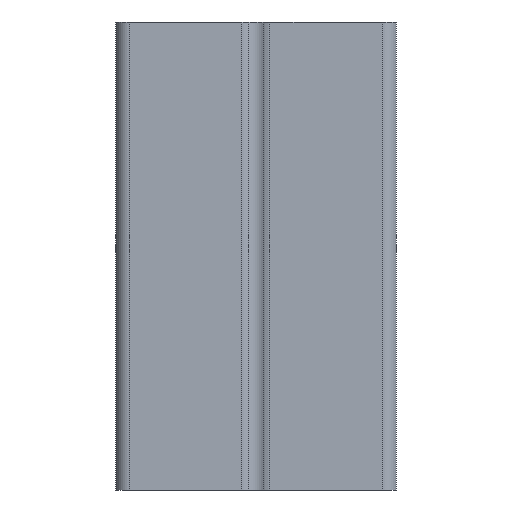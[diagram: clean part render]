
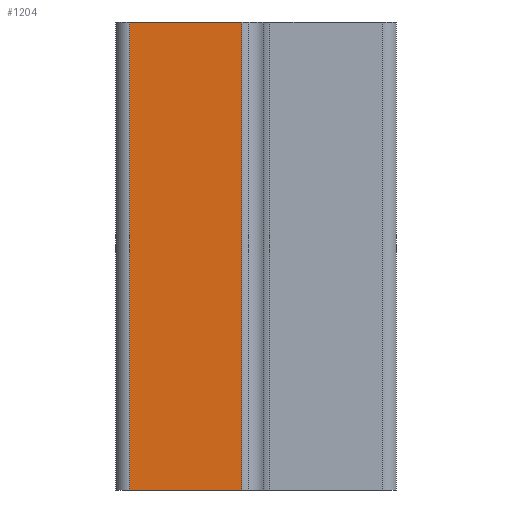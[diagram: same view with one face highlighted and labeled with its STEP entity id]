
A CAD part, front view. The second image highlights one B-rep face of the part: STEP entity #1204.
In plain terms, the highlighted planar face has unit normal (0, -1, 0).
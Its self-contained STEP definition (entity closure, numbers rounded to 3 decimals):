
#52 = DIRECTION ( 'NONE',  ( 0., 0., -1. ) ) ;
#147 = PLANE ( 'NONE',  #148 ) ;
#148 = AXIS2_PLACEMENT_3D ( 'NONE', #502, #373, #623 ) ;
#153 = VECTOR ( 'NONE', #1016, 1000. ) ;
#222 = LINE ( 'NONE', #834, #1396 ) ;
#287 = CARTESIAN_POINT ( 'NONE',  ( -27., -15., 100. ) ) ;
#325 = VECTOR ( 'NONE', #497, 1000. ) ;
#373 = DIRECTION ( 'NONE',  ( 0., 1., 0. ) ) ;
#457 = LINE ( 'NONE', #571, #153 ) ;
#478 = ORIENTED_EDGE ( 'NONE', *, *, #811, .F. ) ;
#497 = DIRECTION ( 'NONE',  ( 0., 0., -1. ) ) ;
#502 = CARTESIAN_POINT ( 'NONE',  ( -27., -15., 100. ) ) ;
#569 = VERTEX_POINT ( 'NONE', #1216 ) ;
#571 = CARTESIAN_POINT ( 'NONE',  ( -27., -15., 100. ) ) ;
#577 = VERTEX_POINT ( 'NONE', #287 ) ;
#594 = EDGE_LOOP ( 'NONE', ( #911, #1450, #478, #1300 ) ) ;
#623 = DIRECTION ( 'NONE',  ( 0., 0., 1. ) ) ;
#687 = VERTEX_POINT ( 'NONE', #1339 ) ;
#695 = LINE ( 'NONE', #1167, #325 ) ;
#811 = EDGE_CURVE ( 'NONE', #577, #823, #457, .T. ) ;
#823 = VERTEX_POINT ( 'NONE', #1382 ) ;
#834 = CARTESIAN_POINT ( 'NONE',  ( -27., -15., 0. ) ) ;
#911 = ORIENTED_EDGE ( 'NONE', *, *, #1008, .T. ) ;
#981 = EDGE_CURVE ( 'NONE', #823, #569, #695, .T. ) ;
#1008 = EDGE_CURVE ( 'NONE', #687, #569, #222, .T. ) ;
#1016 = DIRECTION ( 'NONE',  ( 1., 0., 0. ) ) ;
#1020 = VECTOR ( 'NONE', #52, 1000. ) ;
#1056 = LINE ( 'NONE', #1303, #1020 ) ;
#1057 = EDGE_CURVE ( 'NONE', #577, #687, #1056, .T. ) ;
#1110 = FACE_OUTER_BOUND ( 'NONE', #594, .T. ) ;
#1167 = CARTESIAN_POINT ( 'NONE',  ( -3., -15., 100. ) ) ;
#1204 = ADVANCED_FACE ( 'NONE', ( #1110 ), #147, .F. ) ;
#1216 = CARTESIAN_POINT ( 'NONE',  ( -3., -15., 0. ) ) ;
#1300 = ORIENTED_EDGE ( 'NONE', *, *, #1057, .T. ) ;
#1303 = CARTESIAN_POINT ( 'NONE',  ( -27., -15., 100. ) ) ;
#1339 = CARTESIAN_POINT ( 'NONE',  ( -27., -15., 0. ) ) ;
#1382 = CARTESIAN_POINT ( 'NONE',  ( -3., -15., 100. ) ) ;
#1396 = VECTOR ( 'NONE', #1408, 1000. ) ;
#1408 = DIRECTION ( 'NONE',  ( 1., 0., 0. ) ) ;
#1450 = ORIENTED_EDGE ( 'NONE', *, *, #981, .F. ) ;
